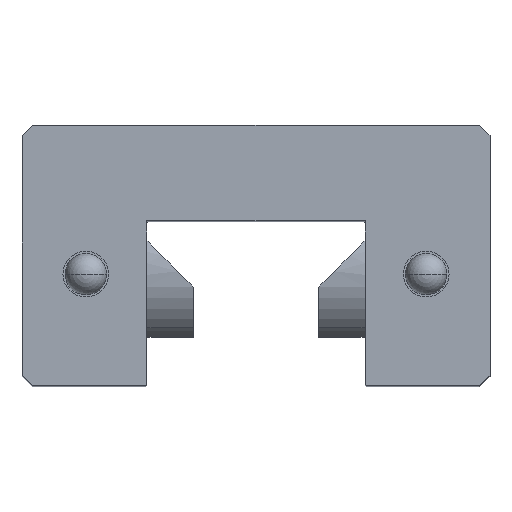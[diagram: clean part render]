
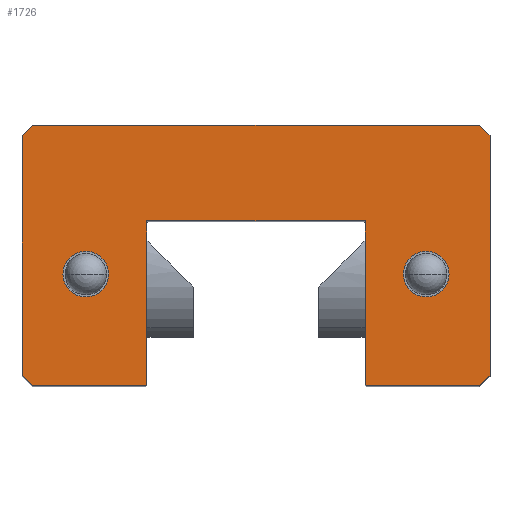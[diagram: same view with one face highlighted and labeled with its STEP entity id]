
A CAD part, top view. The second image highlights one B-rep face of the part: STEP entity #1726.
In plain terms, the highlighted planar face has unit normal (0, 0, 1).
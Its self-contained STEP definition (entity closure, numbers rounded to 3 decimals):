
#1414 = VERTEX_POINT( '', #4171 );
#1550 = EDGE_CURVE( '', #2944, #3814, #4328, .T. );
#1598 = EDGE_CURVE( '', #3022, #2158, #4382, .T. );
#1664 = VERTEX_POINT( '', #4457 );
#1726 = ADVANCED_FACE( '', ( #4525, #4526, #4527 ), #4528, .T. );
#1750 = EDGE_CURVE( '', #3390, #2964, #4556, .T. );
#1820 = EDGE_CURVE( '', #3492, #3798, #4632, .T. );
#2134 = VERTEX_POINT( '', #4993 );
#2158 = VERTEX_POINT( '', #5019 );
#2218 = VERTEX_POINT( '', #5085 );
#2230 = EDGE_CURVE( '', #3798, #1664, #5099, .T. );
#2300 = EDGE_CURVE( '', #1414, #2944, #5178, .T. );
#2594 = VERTEX_POINT( '', #5500 );
#2944 = VERTEX_POINT( '', #5900 );
#2964 = VERTEX_POINT( '', #5929 );
#3022 = VERTEX_POINT( '', #5991 );
#3044 = EDGE_CURVE( '', #2158, #3492, #6018, .T. );
#3048 = VERTEX_POINT( '', #6022 );
#3062 = EDGE_CURVE( '', #2964, #4100, #6036, .T. );
#3246 = EDGE_CURVE( '', #2218, #2594, #6240, .T. );
#3318 = EDGE_CURVE( '', #3814, #3390, #6319, .T. );
#3386 = EDGE_CURVE( '', #3896, #3764, #6399, .T. );
#3390 = VERTEX_POINT( '', #6403 );
#3392 = EDGE_CURVE( '', #1664, #3842, #6405, .T. );
#3492 = VERTEX_POINT( '', #6512 );
#3562 = EDGE_CURVE( '', #3764, #3896, #6589, .T. );
#3598 = EDGE_CURVE( '', #3842, #2134, #6626, .T. );
#3620 = EDGE_CURVE( '', #4100, #3048, #6648, .T. );
#3760 = EDGE_CURVE( '', #3048, #3022, #6802, .T. );
#3764 = VERTEX_POINT( '', #6807 );
#3798 = VERTEX_POINT( '', #6844 );
#3814 = VERTEX_POINT( '', #6863 );
#3842 = VERTEX_POINT( '', #6896 );
#3896 = VERTEX_POINT( '', #6958 );
#3958 = EDGE_CURVE( '', #2594, #2218, #7028, .T. );
#4024 = EDGE_CURVE( '', #2134, #1414, #7103, .T. );
#4100 = VERTEX_POINT( '', #7190 );
#4171 = CARTESIAN_POINT( '', ( 10.25, 21., 0. ) );
#4328 = LINE( '', #7475, #7476 );
#4382 = LINE( '', #7551, #7552 );
#4457 = CARTESIAN_POINT( '', ( -10.35, 5.5, 0. ) );
#4525 = FACE_BOUND( '', #7739, .T. );
#4526 = FACE_BOUND( '', #7740, .T. );
#4527 = FACE_OUTER_BOUND( '', #7741, .T. );
#4528 = PLANE( '', #7742 );
#4556 = LINE( '', #7779, #7780 );
#4632 = LINE( '', #7891, #7892 );
#4993 = CARTESIAN_POINT( '', ( -10.25, 21., 0. ) );
#5019 = CARTESIAN_POINT( '', ( -22., 29., 0. ) );
#5085 = CARTESIAN_POINT( '', ( -16., 13.85, 0. ) );
#5099 = LINE( '', #8513, #8514 );
#5178 = LINE( '', #8624, #8625 );
#5500 = CARTESIAN_POINT( '', ( -16., 18.15, 0. ) );
#5900 = CARTESIAN_POINT( '', ( 10.25, 5.6, 0. ) );
#5929 = CARTESIAN_POINT( '', ( 22., 6.5, 0. ) );
#5991 = CARTESIAN_POINT( '', ( -21., 30., 0. ) );
#6018 = LINE( '', #9746, #9747 );
#6022 = CARTESIAN_POINT( '', ( 21., 30., 0. ) );
#6036 = LINE( '', #9774, #9775 );
#6240 = CIRCLE( '', #10049, 2.15 );
#6319 = LINE( '', #10159, #10160 );
#6399 = CIRCLE( '', #10270, 2.15 );
#6403 = CARTESIAN_POINT( '', ( 21., 5.5, 0. ) );
#6405 = LINE( '', #10279, #10280 );
#6512 = CARTESIAN_POINT( '', ( -22., 6.5, 0. ) );
#6589 = CIRCLE( '', #10534, 2.15 );
#6626 = LINE( '', #10591, #10592 );
#6648 = LINE( '', #10627, #10628 );
#6802 = LINE( '', #10845, #10846 );
#6807 = CARTESIAN_POINT( '', ( 16., 13.85, 0. ) );
#6844 = CARTESIAN_POINT( '', ( -21., 5.5, 0. ) );
#6863 = CARTESIAN_POINT( '', ( 10.35, 5.5, 0. ) );
#6896 = CARTESIAN_POINT( '', ( -10.25, 5.6, 0. ) );
#6958 = CARTESIAN_POINT( '', ( 16., 18.15, 0. ) );
#7028 = CIRCLE( '', #11145, 2.15 );
#7103 = LINE( '', #11243, #11244 );
#7190 = CARTESIAN_POINT( '', ( 22., 29., 0. ) );
#7475 = CARTESIAN_POINT( '', ( 10.25, 5.6, 0. ) );
#7476 = VECTOR( '', #11615, 1. );
#7551 = CARTESIAN_POINT( '', ( -21., 30., 0. ) );
#7552 = VECTOR( '', #11676, 1. );
#7739 = EDGE_LOOP( '', ( #11833, #11834 ) );
#7740 = EDGE_LOOP( '', ( #11835, #11836 ) );
#7741 = EDGE_LOOP( '', ( #11837, #11838, #11839, #11840, #11841, #11842, #11843, #11844, #11845, #11846, #11847, #11848, #11849, #11850 ) );
#7742 = AXIS2_PLACEMENT_3D( '', #11851, #11852, #11853 );
#7779 = CARTESIAN_POINT( '', ( 21., 5.5, 0. ) );
#7780 = VECTOR( '', #11889, 1. );
#7891 = CARTESIAN_POINT( '', ( -22., 6.5, 0. ) );
#7892 = VECTOR( '', #11972, 1. );
#8513 = CARTESIAN_POINT( '', ( -21., 5.5, 0. ) );
#8514 = VECTOR( '', #12558, 1. );
#8624 = CARTESIAN_POINT( '', ( 10.25, 21., 0. ) );
#8625 = VECTOR( '', #12658, 1. );
#9746 = CARTESIAN_POINT( '', ( -22., 29., 0. ) );
#9747 = VECTOR( '', #13608, 1. );
#9774 = CARTESIAN_POINT( '', ( 22., 6.5, 0. ) );
#9775 = VECTOR( '', #13613, 1. );
#10049 = AXIS2_PLACEMENT_3D( '', #13844, #13845, #13846 );
#10159 = CARTESIAN_POINT( '', ( 10.35, 5.5, 0. ) );
#10160 = VECTOR( '', #13929, 1. );
#10270 = AXIS2_PLACEMENT_3D( '', #14022, #14023, #14024 );
#10279 = CARTESIAN_POINT( '', ( -10.35, 5.5, 0. ) );
#10280 = VECTOR( '', #14026, 1. );
#10534 = AXIS2_PLACEMENT_3D( '', #14196, #14197, #14198 );
#10591 = CARTESIAN_POINT( '', ( -10.25, 5.6, 0. ) );
#10592 = VECTOR( '', #14226, 1. );
#10627 = CARTESIAN_POINT( '', ( 22., 29., 0. ) );
#10628 = VECTOR( '', #14233, 1. );
#10845 = CARTESIAN_POINT( '', ( 21., 30., 0. ) );
#10846 = VECTOR( '', #14410, 1. );
#11145 = AXIS2_PLACEMENT_3D( '', #14668, #14669, #14670 );
#11243 = CARTESIAN_POINT( '', ( -10.25, 21., 0. ) );
#11244 = VECTOR( '', #14769, 1. );
#11615 = DIRECTION( '', ( 0.707, -0.707, 0. ) );
#11676 = DIRECTION( '', ( -0.707, -0.707, 0. ) );
#11833 = ORIENTED_EDGE( '', *, *, #3386, .T. );
#11834 = ORIENTED_EDGE( '', *, *, #3562, .T. );
#11835 = ORIENTED_EDGE( '', *, *, #3958, .T. );
#11836 = ORIENTED_EDGE( '', *, *, #3246, .T. );
#11837 = ORIENTED_EDGE( '', *, *, #3044, .T. );
#11838 = ORIENTED_EDGE( '', *, *, #1820, .T. );
#11839 = ORIENTED_EDGE( '', *, *, #2230, .T. );
#11840 = ORIENTED_EDGE( '', *, *, #3392, .T. );
#11841 = ORIENTED_EDGE( '', *, *, #3598, .T. );
#11842 = ORIENTED_EDGE( '', *, *, #4024, .T. );
#11843 = ORIENTED_EDGE( '', *, *, #2300, .T. );
#11844 = ORIENTED_EDGE( '', *, *, #1550, .T. );
#11845 = ORIENTED_EDGE( '', *, *, #3318, .T. );
#11846 = ORIENTED_EDGE( '', *, *, #1750, .T. );
#11847 = ORIENTED_EDGE( '', *, *, #3062, .T. );
#11848 = ORIENTED_EDGE( '', *, *, #3620, .T. );
#11849 = ORIENTED_EDGE( '', *, *, #3760, .T. );
#11850 = ORIENTED_EDGE( '', *, *, #1598, .T. );
#11851 = CARTESIAN_POINT( '', ( 0., 0., 0. ) );
#11852 = DIRECTION( '', ( 0., 0., 1. ) );
#11853 = DIRECTION( '', ( 1., 0., 0. ) );
#11889 = DIRECTION( '', ( 0.707, 0.707, 0. ) );
#11972 = DIRECTION( '', ( 0.707, -0.707, 0. ) );
#12558 = DIRECTION( '', ( 1., 0., 0. ) );
#12658 = DIRECTION( '', ( 0., -1., 0. ) );
#13608 = DIRECTION( '', ( 0., -1., 0. ) );
#13613 = DIRECTION( '', ( 0., 1., 0. ) );
#13844 = CARTESIAN_POINT( '', ( -16., 16., 0. ) );
#13845 = DIRECTION( '', ( 0., 0., -1. ) );
#13846 = DIRECTION( '', ( 0., -1., 0. ) );
#13929 = DIRECTION( '', ( 1., 0., 0. ) );
#14022 = CARTESIAN_POINT( '', ( 16., 16., 0. ) );
#14023 = DIRECTION( '', ( 0., 0., -1. ) );
#14024 = DIRECTION( '', ( 0., -1., 0. ) );
#14026 = DIRECTION( '', ( 0.707, 0.707, 0. ) );
#14196 = CARTESIAN_POINT( '', ( 16., 16., 0. ) );
#14197 = DIRECTION( '', ( 0., 0., -1. ) );
#14198 = DIRECTION( '', ( 0., -1., 0. ) );
#14226 = DIRECTION( '', ( 0., 1., 0. ) );
#14233 = DIRECTION( '', ( -0.707, 0.707, 0. ) );
#14410 = DIRECTION( '', ( -1., 0., 0. ) );
#14668 = CARTESIAN_POINT( '', ( -16., 16., 0. ) );
#14669 = DIRECTION( '', ( 0., 0., -1. ) );
#14670 = DIRECTION( '', ( 0., -1., 0. ) );
#14769 = DIRECTION( '', ( 1., 0., 0. ) );
